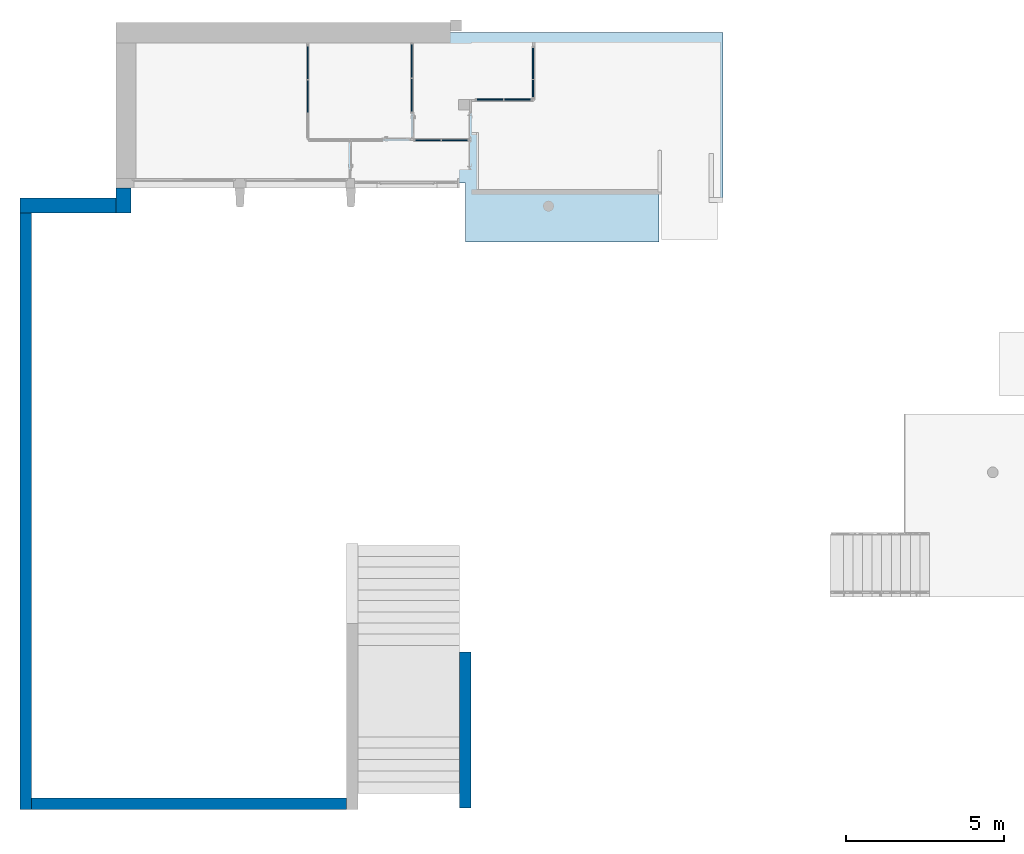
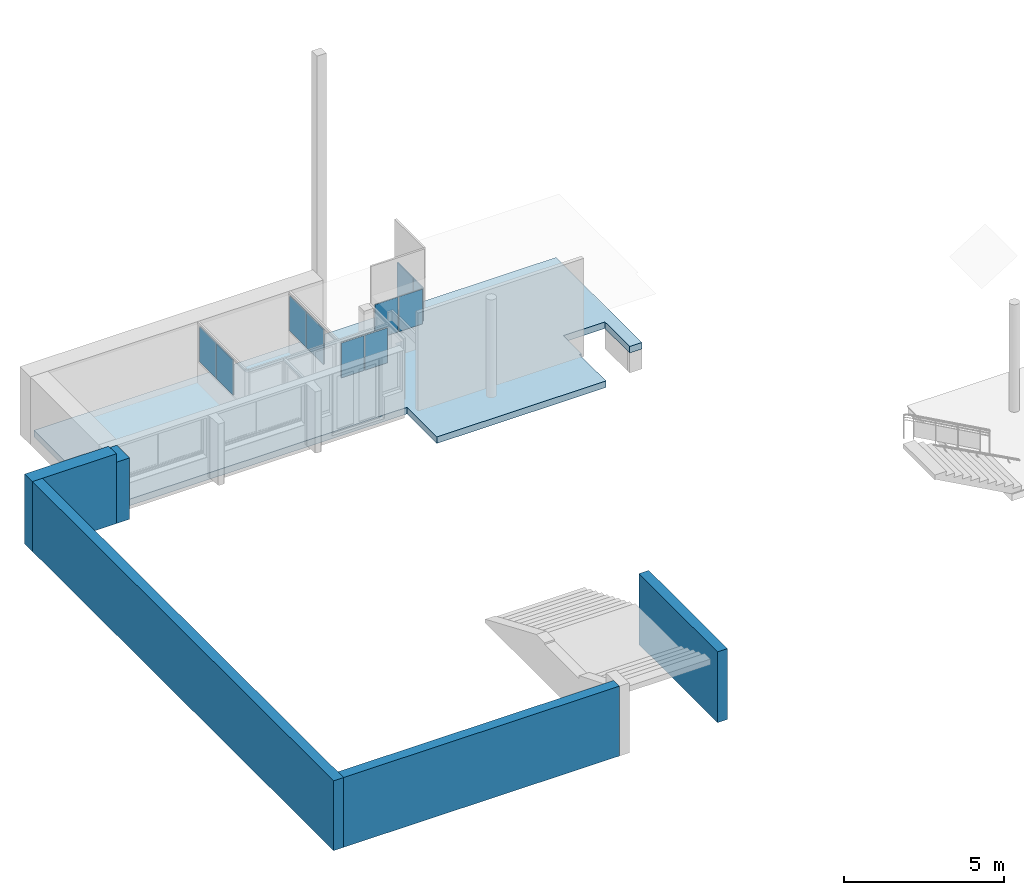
# One storey, part 5 of 19: 10 plates, 5 walls, 1 slab, 5 elements without a shape of their own.
"""IFC4 building model written with IfcOpenShell, lengths in metres."""

import ifcopenshell
import ifcopenshell.guid

model = None  # the IFC model being written
_history = None  # IfcOwnerHistory: only IFC2X3 demands one
_inside = {}  # id of a spatial element -> (the spatial element, [elements in it])
_under = {}  # id of a project, library or spatial element -> (it, [spatial elements below it])
_declared = {}  # id of a project -> (the project, [libraries it declares])
_typed = {}  # id of a type object -> (the type object, [elements of that type])
_made_of = {}  # id of a material, layer set ... -> (it, [elements and type objects made of it])


def new_model(schema):
    """Start an empty IFC model of exactly this schema.

    Asked for "IFC4X3", IfcOpenShell would pick the latest addendum, in which some entities
    have other attributes; the version numbers below select the first issue.
    IFC2X3 requires an IfcOwnerHistory on every rooted entity: one is made here for all.
    """
    global model, _history
    if schema == "IFC4X3":
        model = ifcopenshell.file(schema_version=(4, 3, 0, 0))
    else:
        model = ifcopenshell.file(schema=schema)
    _inside.clear()
    _under.clear()
    _declared.clear()
    _typed.clear()
    _made_of.clear()
    _history = None
    if model.schema == "IFC2X3":
        org = make("IfcOrganization", Name="unknown")
        user = make(
            "IfcPersonAndOrganization",
            ThePerson=make("IfcPerson", FamilyName="unknown"),
            TheOrganization=org,
        )
        app = make(
            "IfcApplication",
            ApplicationDeveloper=org,
            Version="unknown",
            ApplicationFullName="unknown",
            ApplicationIdentifier="unknown",
        )
        _history = make(
            "IfcOwnerHistory",
            OwningUser=user,
            OwningApplication=app,
            ChangeAction="ADDED",
            CreationDate=0,
        )
    return model


def make(cls, **values):
    """One entity of the class cls with the attributes given. An attribute that is None is left unset."""
    return model.create_entity(
        cls, **{name: value for name, value in values.items() if value is not None}
    )


def entity(cls, *values):
    """Any entity or typed value of the class cls, its attributes in the order of the schema. None: left unset."""
    e = model.create_entity(cls)
    for i, value in enumerate(values):
        if value is not None:
            e[i] = value
    return e


def rooted(cls, **values):
    """An entity with a GlobalId (a new one), such as an element, a storey or a relation."""
    return make(cls, GlobalId=ifcopenshell.guid.new(), OwnerHistory=_history, **values)


def si_unit(unit_type, name, prefix=None):
    """IfcSIUnit, for example si_unit("LENGTHUNIT", "METRE", prefix="MILLI")."""
    return make("IfcSIUnit", UnitType=unit_type, Prefix=prefix, Name=name)


def converted_unit(unit_type, name, factor, base, dimensions=None, offset=None):
    """IfcConversionBasedUnit, such as the inch: factor (a typed value) times the base unit."""
    return make(
        "IfcConversionBasedUnit"
        if offset is None
        else "IfcConversionBasedUnitWithOffset",
        ConversionOffset=offset,
        Dimensions=None
        if dimensions is None
        else entity("IfcDimensionalExponents", *dimensions),
        UnitType=unit_type,
        Name=name,
        ConversionFactor=make(
            "IfcMeasureWithUnit", ValueComponent=factor, UnitComponent=base
        ),
    )


def derived_unit(unit_type, elements):
    """IfcDerivedUnit: a product of units, each with its exponent."""
    return make(
        "IfcDerivedUnit",
        Elements=[
            make("IfcDerivedUnitElement", Unit=unit, Exponent=power)
            for unit, power in elements
        ],
        UnitType=unit_type,
    )


def assignment(units):
    """IfcUnitAssignment: the units of a project."""
    return None if units is None else make("IfcUnitAssignment", Units=units)


def point(xyz):
    """IfcCartesianPoint."""
    return None if xyz is None else make("IfcCartesianPoint", Coordinates=xyz)


def direction(xyz):
    """IfcDirection."""
    return None if xyz is None else make("IfcDirection", DirectionRatios=xyz)


def frame(location, z_axis=None, x_axis=None):
    """IfcAxis2Placement3D, a coordinate frame: its origin and axes. An axis left out is left unset."""
    return make(
        "IfcAxis2Placement3D",
        Location=point(location),
        Axis=direction(z_axis),
        RefDirection=direction(x_axis),
    )


def origin():
    """The frame at (0, 0, 0) with its axes left unset."""
    return frame((0.0, 0.0, 0.0))


def place(relative_to, where):
    """IfcLocalPlacement: puts the frame where relative to a parent placement (None: the world)."""
    return make(
        "IfcLocalPlacement", PlacementRelTo=relative_to, RelativePlacement=where
    )


def context(
    kind, dimensions, precision=None, world=None, true_north=None, identifier=None
):
    """IfcGeometricRepresentationContext, for example the 3D "Model" context."""
    return make(
        "IfcGeometricRepresentationContext",
        ContextIdentifier=identifier,
        ContextType=kind,
        CoordinateSpaceDimension=dimensions,
        Precision=precision,
        WorldCoordinateSystem=world,
        TrueNorth=true_north,
    )


def subcontext(parent, identifier, kind, view, scale=None):
    """IfcGeometricRepresentationSubContext, for example "Body" below "Model"."""
    return make(
        "IfcGeometricRepresentationSubContext",
        ContextIdentifier=identifier,
        ContextType=kind,
        ParentContext=parent,
        TargetScale=scale,
        TargetView=view,
    )


def project(units=None, contexts=None):
    """IfcProject with its units and contexts."""
    return rooted(
        "IfcProject",
        Name="project",
        RepresentationContexts=contexts,
        UnitsInContext=assignment(units),
    )


def spatial(cls, under=None, at=None, **own):
    """A site, building, storey or space (cls), placed at a placement, below another one or the project."""
    s = rooted(cls, ObjectPlacement=at, **own)
    if under is not None:
        _under.setdefault(under.id(), (under, []))[1].append(s)
    return s


def point_list(points):
    """IfcCartesianPointList2D or 3D."""
    cls = (
        "IfcCartesianPointList2D" if len(points[0]) == 2 else "IfcCartesianPointList3D"
    )
    return make(cls, CoordList=points)


def indexed_curve(points, segments=None, self_intersect=None):
    """IfcIndexedPolyCurve: lines and arcs through numbered points (the first is 1)."""
    return make(
        "IfcIndexedPolyCurve",
        Points=point_list(points),
        Segments=segments,
        SelfIntersect=self_intersect,
    )


def outline(outer, holes=None, kind="AREA"):
    """IfcArbitraryClosedProfileDef: a profile drawn as a closed curve; with holes, ...WithVoids."""
    if holes is None:
        return make("IfcArbitraryClosedProfileDef", ProfileType=kind, OuterCurve=outer)
    return make(
        "IfcArbitraryProfileDefWithVoids",
        ProfileType=kind,
        OuterCurve=outer,
        InnerCurves=holes,
    )


def extrude(swept, where, along, depth):
    """IfcExtrudedAreaSolid: the profile swept, set in the frame where, extruded along a direction by depth."""
    return make(
        "IfcExtrudedAreaSolid",
        SweptArea=swept,
        Position=where,
        ExtrudedDirection=direction(along),
        Depth=depth,
    )


def shape(context_of_items, identifier, shape_type, items):
    """IfcShapeRepresentation: the items that make up one representation, for example the "Body"."""
    return make(
        "IfcShapeRepresentation",
        ContextOfItems=context_of_items,
        RepresentationIdentifier=identifier,
        RepresentationType=shape_type,
        Items=items,
    )


def source(mapping_origin, context_of_items, identifier, shape_type, items):
    """IfcRepresentationMap: a shape defined once, which mapped items show again and again."""
    return make(
        "IfcRepresentationMap",
        MappingOrigin=mapping_origin,
        MappedRepresentation=shape(context_of_items, identifier, shape_type, items),
    )


def transform(
    local_origin,
    x_axis=None,
    y_axis=None,
    z_axis=None,
    scale=None,
    scale2=None,
    scale3=None,
    uniform=True,
):
    """IfcCartesianTransformationOperator3D, or its non-uniform kind. x_axis, y_axis, z_axis: its Axis1, 2, 3."""
    if uniform:
        return make(
            "IfcCartesianTransformationOperator3D",
            Axis1=direction(x_axis),
            Axis2=direction(y_axis),
            LocalOrigin=point(local_origin),
            Scale=scale,
            Axis3=direction(z_axis),
        )
    return make(
        "IfcCartesianTransformationOperator3DnonUniform",
        Axis1=direction(x_axis),
        Axis2=direction(y_axis),
        LocalOrigin=point(local_origin),
        Scale=scale,
        Axis3=direction(z_axis),
        Scale2=scale2,
        Scale3=scale3,
    )


def mapped(mapping_source, mapping_target):
    """IfcMappedItem: shows the shape of a source again, moved by a transform."""
    return make(
        "IfcMappedItem", MappingSource=mapping_source, MappingTarget=mapping_target
    )


def material(Name=None, Category=None):
    """IfcMaterial."""
    return make("IfcMaterial", Name=Name, Category=Category)


def layer(
    of_material, thickness, ventilated=None, Name=None, Category=None, Priority=None
):
    """IfcMaterialLayer: one layer of a wall or slab, of a material (None: an air gap)."""
    return make(
        "IfcMaterialLayer",
        Material=of_material,
        LayerThickness=thickness,
        IsVentilated=ventilated,
        Name=Name,
        Category=Category,
        Priority=Priority,
    )


def layer_set(layers, Name=None):
    """IfcMaterialLayerSet."""
    return make("IfcMaterialLayerSet", MaterialLayers=layers, LayerSetName=Name)


def made_of(thing, what):
    """Note that an element or type object is made of a material, layer set ...; save() writes the relation."""
    if what is not None:
        _made_of.setdefault(what.id(), (what, []))[1].append(thing)
    return thing


def type_object(cls, material=None, **own):
    """A type object (cls), such as IfcWallType, which elements share."""
    return made_of(rooted(cls, **own), material)


def type_shapes(of_type, sources):
    """Give a type object the sources (RepresentationMaps) that its elements show as mapped items."""
    of_type.RepresentationMaps = sources


def element(
    cls,
    number,
    at=None,
    inside=None,
    cuts=None,
    type_object=None,
    material=None,
    context=None,
    identifier="Body",
    shape_type=None,
    held_by="IfcProductDefinitionShape",
    body=None,
    shapes=None,
    **own,
):
    """One element of the class cls, such as IfcWall. Its Tag is "e" and its number.

    at: its placement. inside: the storey or other place that contains it. cuts: it is an
    opening in that element (IfcRelVoidsElement). A single representation is given by context,
    identifier, shape_type and body (its items); several are given by shapes. held_by: the class
    of the entity that holds the representations. save() writes the other relations.
    """
    e = rooted(cls, Tag="e%d" % number, ObjectPlacement=at, **own)
    if body is not None:
        shapes = [shape(context, identifier, shape_type, body)]
    if shapes is not None:
        e.Representation = make(held_by, Representations=shapes)
    if inside is not None:
        _inside.setdefault(inside.id(), (inside, []))[1].append(e)
    if cuts is not None:
        rooted(
            "IfcRelVoidsElement", RelatingBuildingElement=cuts, RelatedOpeningElement=e
        )
    if type_object is not None:
        _typed.setdefault(type_object.id(), (type_object, []))[1].append(e)
    return made_of(e, material)


def aggregate(whole, parts):
    """IfcRelAggregates: a whole, such as a stair, and the parts it consists of."""
    return rooted("IfcRelAggregates", RelatingObject=whole, RelatedObjects=parts)


def save(model, path):
    """Write the relations noted so far, then the file.

    IfcRelAggregates (storeys below a building ...), IfcRelContainedInSpatialStructure (elements
    in a storey), IfcRelDefinesByType, IfcRelAssociatesMaterial and IfcRelDeclares: one each for
    every whole, place, type object, material and project.
    """
    for whole, parts in _under.values():
        aggregate(whole, parts)
    for where, things in _inside.values():
        rooted(
            "IfcRelContainedInSpatialStructure",
            RelatedElements=things,
            RelatingStructure=where,
        )
    for kind, things in _typed.values():
        rooted("IfcRelDefinesByType", RelatedObjects=things, RelatingType=kind)
    for what, things in _made_of.values():
        rooted("IfcRelAssociatesMaterial", RelatedObjects=things, RelatingMaterial=what)
    for by, libraries in _declared.values():
        rooted("IfcRelDeclares", RelatingContext=by, RelatedDefinitions=libraries)
    model.write(path)


model = new_model("IFC4")

# Units and contexts
model_context = context("Model", 3, precision=1e-05, world=origin(), true_north=direction((6.12303176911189e-17, 1.0)))
body_context = subcontext(model_context, "Body", "Model", "MODEL_VIEW")
footprint_context = subcontext(model_context, "FootPrint", "Model", "MODEL_VIEW")
ifc_project = project(units=[si_unit("LENGTHUNIT", "METRE"), si_unit("AREAUNIT", "SQUARE_METRE"), si_unit("VOLUMEUNIT", "CUBIC_METRE"), converted_unit("PLANEANGLEUNIT", "DEGREE", entity("IfcRatioMeasure", 0.0174532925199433), si_unit("PLANEANGLEUNIT", "RADIAN"), dimensions=[0, 0, 0, 0, 0, 0, 0]), si_unit("MASSUNIT", "GRAM", prefix="KILO"), derived_unit("MASSDENSITYUNIT", [(si_unit("MASSUNIT", "GRAM", prefix="KILO"), 1), (si_unit("LENGTHUNIT", "METRE"), -3)]), derived_unit("MOMENTOFINERTIAUNIT", [(si_unit("LENGTHUNIT", "METRE"), 4)]), si_unit("TIMEUNIT", "SECOND"), si_unit("FREQUENCYUNIT", "HERTZ"), si_unit("THERMODYNAMICTEMPERATUREUNIT", "DEGREE_CELSIUS"), derived_unit("THERMALTRANSMITTANCEUNIT", [(si_unit("MASSUNIT", "GRAM", prefix="KILO"), 1), (si_unit("THERMODYNAMICTEMPERATUREUNIT", "KELVIN"), -1), (si_unit("TIMEUNIT", "SECOND"), -3)]), derived_unit("VOLUMETRICFLOWRATEUNIT", [(si_unit("LENGTHUNIT", "METRE"), 3), (si_unit("TIMEUNIT", "SECOND"), -1)]), si_unit("ELECTRICCURRENTUNIT", "AMPERE"), si_unit("ELECTRICVOLTAGEUNIT", "VOLT"), si_unit("POWERUNIT", "WATT"), si_unit("FORCEUNIT", "NEWTON", prefix="KILO"), si_unit("ILLUMINANCEUNIT", "LUX"), si_unit("LUMINOUSFLUXUNIT", "LUMEN"), si_unit("LUMINOUSINTENSITYUNIT", "CANDELA"), derived_unit("USERDEFINED", [(si_unit("MASSUNIT", "GRAM", prefix="KILO"), -1), (si_unit("LENGTHUNIT", "METRE"), -2), (si_unit("TIMEUNIT", "SECOND"), 3), (si_unit("LUMINOUSFLUXUNIT", "LUMEN"), 1)]), derived_unit("LINEARVELOCITYUNIT", [(si_unit("LENGTHUNIT", "METRE"), 1), (si_unit("TIMEUNIT", "SECOND"), -1)]), si_unit("PRESSUREUNIT", "PASCAL"), derived_unit("USERDEFINED", [(si_unit("LENGTHUNIT", "METRE"), -2), (si_unit("MASSUNIT", "GRAM", prefix="KILO"), 1), (si_unit("TIMEUNIT", "SECOND"), -2)]), derived_unit("LINEARFORCEUNIT", [(si_unit("MASSUNIT", "GRAM", prefix="KILO"), 1), (si_unit("LENGTHUNIT", "METRE"), 1), (si_unit("TIMEUNIT", "SECOND"), -2), (si_unit("LENGTHUNIT", "METRE"), -1)]), derived_unit("PLANARFORCEUNIT", [(si_unit("MASSUNIT", "GRAM", prefix="KILO"), 1), (si_unit("LENGTHUNIT", "METRE"), 1), (si_unit("TIMEUNIT", "SECOND"), -2), (si_unit("LENGTHUNIT", "METRE"), -2)])], contexts=[model_context])

# Site, building, storey
site_placement = place(None, origin())
site = spatial("IfcSite", under=ifc_project, at=site_placement, Name="Default", CompositionType="ELEMENT")
building_placement = place(site_placement, origin())
building = spatial("IfcBuilding", under=site, at=building_placement, Name="HOTEL CONSULAIRE BOULOGNE SUR MER", CompositionType="ELEMENT")
storey_placement = place(building_placement, frame((0.0, 0.0, -4.01003075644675)))
storey = spatial("IfcBuildingStorey", under=building, at=storey_placement, Name="SS2", CompositionType="ELEMENT", Elevation=-4.01003075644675)

# Curtain wall, plates
curtain_wall_type = type_object("IfcCurtainWallType", Name="Mur-rideau:Simple panneau", PredefinedType="NOTDEFINED")
curtain_wall_1_placement = place(storey_placement, frame((0.0, 0.0, 4.01003075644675)))
curtain_wall_1 = element("IfcCurtainWall", 1, at=curtain_wall_1_placement, inside=storey, type_object=curtain_wall_type, Name="Mur-rideau:Simple panneau", ObjectType="Mur-rideau:Simple panneau", PredefinedType="NOTDEFINED")
ifc_material_1 = material(Name="Verre", Category="Verre")
ifc_layer_1 = layer(ifc_material_1, 0.04, Name="Verre", Category="Verre")
ifc_layer_set_1 = layer_set([ifc_layer_1], Name="Mur-rideau:Simple panneau")
plate_type_1 = type_object("IfcPlateType", Name="Panneau système:Vitré", PredefinedType="CURTAIN_PANEL", material=ifc_layer_set_1)
shared_shape_1 = source(origin(), body_context, "Body", "SweptSolid", [
    extrude(outline(indexed_curve([(-0.02, -0.274563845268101), (0.02, -0.274563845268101), (0.02, 0.274563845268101), (-0.02, 0.274563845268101), (-0.02, -0.274563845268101)], self_intersect=False)), frame((0.274563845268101, 0.02, 0.0), z_axis=(0.0, 0.0, 1.0), x_axis=(0.0, 1.0, 0.0)), (0.0, 0.0, 1.0), 1.29409370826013),
])
shared_shape_2 = source(frame((-0.274563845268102, 0.00500000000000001, 0.0)), footprint_context, "FootPrint", "Curve2D", [
    entity("IfcIndexedPolyCurve", entity("IfcCartesianPointList2D", [[0.358250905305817, 0.003476], [0.358250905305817, 0.043476], [-0.190876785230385, 0.043476], [-0.190876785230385, 0.003476], [0.358250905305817, 0.003476]]), None, False),
])
type_shapes(plate_type_1, [shared_shape_1, shared_shape_2])
plate_1_placement = place(curtain_wall_1_placement, frame((-11.5139610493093, -12.1861492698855, -3.10059183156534), z_axis=(0.0, 0.0, 1.0), x_axis=(0.0, 1.0, 0.0)))
plate_1 = element("IfcPlate", 2, at=plate_1_placement, type_object=plate_type_1, material=ifc_layer_set_1, Name="Panneau système:Vitré", ObjectType="Panneau système:Vitré", PredefinedType="CURTAIN_PANEL", shapes=[
    shape(body_context, "Body", "MappedRepresentation", [mapped(shared_shape_1, transform((0.0, 0.0, 0.0), scale=1.0))]),
    shape(body_context, "Body", "MappedRepresentation", [mapped(shared_shape_2, transform((0.0, 0.0, 0.0), scale=1.0))]),
])
plate_type_2 = type_object("IfcPlateType", Name="Panneau système:Vitré", PredefinedType="CURTAIN_PANEL", material=ifc_layer_set_1)
shared_shape_3 = source(origin(), body_context, "Body", "SweptSolid", [
    extrude(outline(indexed_curve([(-0.02, -0.492012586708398), (0.02, -0.492012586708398), (0.02, 0.492012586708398), (-0.02, 0.492012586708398), (-0.02, -0.492012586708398)], self_intersect=False)), frame((0.492012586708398, 0.02, 0.0), z_axis=(0.0, 0.0, 1.0), x_axis=(0.0, 1.0, 0.0)), (0.0, 0.0, 1.0), 1.29409370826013),
])
shared_shape_4 = source(frame((-0.492012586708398, 0.00500000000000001, 0.0)), footprint_context, "FootPrint", "Curve2D", [
    entity("IfcIndexedPolyCurve", entity("IfcCartesianPointList2D", [[0.641978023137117, 0.003476], [0.641978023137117, 0.043476], [-0.342047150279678, 0.043476], [-0.342047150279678, 0.003476], [0.641978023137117, 0.003476]]), None, False),
])
type_shapes(plate_type_2, [shared_shape_3, shared_shape_4])
plate_2_placement = place(curtain_wall_1_placement, frame((-11.5139610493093, -11.6070215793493, -3.10059183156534), z_axis=(0.0, 0.0, 1.0), x_axis=(0.0, 1.0, 0.0)))
plate_2 = element("IfcPlate", 3, at=plate_2_placement, type_object=plate_type_2, material=ifc_layer_set_1, Name="Panneau système:Vitré", ObjectType="Panneau système:Vitré", PredefinedType="CURTAIN_PANEL", shapes=[
    shape(body_context, "Body", "MappedRepresentation", [mapped(shared_shape_3, transform((0.0, 0.0, 0.0), scale=1.0))]),
    shape(body_context, "Body", "MappedRepresentation", [mapped(shared_shape_4, transform((0.0, 0.0, 0.0), scale=1.0))]),
])
aggregate(curtain_wall_1, [plate_1, plate_2])

curtain_wall_2_placement = place(storey_placement, frame((0.0, 0.0, 4.01003075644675)))
curtain_wall_2 = element("IfcCurtainWall", 4, at=curtain_wall_2_placement, inside=storey, type_object=curtain_wall_type, Name="Mur-rideau:Simple panneau", ObjectType="Mur-rideau:Simple panneau", PredefinedType="NOTDEFINED")
plate_type_3 = type_object("IfcPlateType", Name="Panneau système:Vitré", PredefinedType="CURTAIN_PANEL", material=ifc_layer_set_1)
shared_shape_5 = source(origin(), body_context, "Body", "SweptSolid", [
    extrude(outline(indexed_curve([(-0.02, -0.417004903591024), (0.02, -0.417004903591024), (0.02, 0.417004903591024), (-0.02, 0.417004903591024), (-0.02, -0.417004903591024)], self_intersect=False)), frame((0.417004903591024, 0.02, 0.0), z_axis=(0.0, 0.0, 1.0), x_axis=(0.0, 1.0, 0.0)), (0.0, 0.0, 1.0), 1.32926671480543),
])
shared_shape_6 = source(frame((-0.417004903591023, 0.00500000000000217, 0.0)), footprint_context, "FootPrint", "Curve2D", [
    entity("IfcIndexedPolyCurve", entity("IfcCartesianPointList2D", [[0.544107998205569, 0.00347600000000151], [0.544107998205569, 0.0434760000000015], [-0.289901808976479, 0.0434760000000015], [-0.289901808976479, 0.00347600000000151], [0.544107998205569, 0.00347600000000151]]), None, False),
])
type_shapes(plate_type_3, [shared_shape_5, shared_shape_6])
plate_3_placement = place(curtain_wall_2_placement, frame((-13.3079806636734, -12.2751492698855, -3.13576483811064)))
plate_3 = element("IfcPlate", 5, at=plate_3_placement, type_object=plate_type_3, material=ifc_layer_set_1, Name="Panneau système:Vitré", ObjectType="Panneau système:Vitré", PredefinedType="CURTAIN_PANEL", shapes=[
    shape(body_context, "Body", "MappedRepresentation", [mapped(shared_shape_5, transform((0.0, 0.0, 0.0), scale=1.0))]),
    shape(body_context, "Body", "MappedRepresentation", [mapped(shared_shape_6, transform((0.0, 0.0, 0.0), scale=1.0))]),
])
plate_type_4 = type_object("IfcPlateType", Name="Panneau système:Vitré", PredefinedType="CURTAIN_PANEL", material=ifc_layer_set_1)
shared_shape_7 = source(origin(), body_context, "Body", "SweptSolid", [
    extrude(outline(indexed_curve([(-0.02, -0.42050490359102), (0.02, -0.42050490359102), (0.02, 0.42050490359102), (-0.02, 0.42050490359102), (-0.02, -0.42050490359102)], self_intersect=False)), frame((0.42050490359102, 0.02, 0.0), z_axis=(0.0, 0.0, 1.0), x_axis=(0.0, 1.0, 0.0)), (0.0, 0.0, 1.0), 1.32926671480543),
])
shared_shape_8 = source(frame((-0.42050490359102, 0.00499999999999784, 0.0)), footprint_context, "FootPrint", "Curve2D", [
    entity("IfcIndexedPolyCurve", entity("IfcCartesianPointList2D", [[0.548674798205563, 0.0034759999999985], [0.548674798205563, 0.0434759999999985], [-0.292335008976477, 0.0434759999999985], [-0.292335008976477, 0.0034759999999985], [0.548674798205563, 0.0034759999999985]]), None, False),
])
type_shapes(plate_type_4, [shared_shape_7, shared_shape_8])
plate_4_placement = place(curtain_wall_2_placement, frame((-12.4439708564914, -12.2751492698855, -3.13576483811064)))
plate_4 = element("IfcPlate", 6, at=plate_4_placement, type_object=plate_type_4, material=ifc_layer_set_1, Name="Panneau système:Vitré", ObjectType="Panneau système:Vitré", PredefinedType="CURTAIN_PANEL", shapes=[
    shape(body_context, "Body", "MappedRepresentation", [mapped(shared_shape_7, transform((0.0, 0.0, 0.0), scale=1.0))]),
    shape(body_context, "Body", "MappedRepresentation", [mapped(shared_shape_8, transform((0.0, 0.0, 0.0), scale=1.0))]),
])
aggregate(curtain_wall_2, [plate_3, plate_4])

curtain_wall_3_placement = place(storey_placement, frame((0.0, 0.0, 4.01003075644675)))
curtain_wall_3 = element("IfcCurtainWall", 7, at=curtain_wall_3_placement, inside=storey, type_object=curtain_wall_type, Name="Mur-rideau:Simple panneau", ObjectType="Mur-rideau:Simple panneau", PredefinedType="NOTDEFINED")
plate_type_5 = type_object("IfcPlateType", Name="Panneau système:Vitré", PredefinedType="CURTAIN_PANEL", material=ifc_layer_set_1)
shared_shape_9 = source(origin(), body_context, "Body", "SweptSolid", [
    extrude(outline(indexed_curve([(-0.02, -0.523250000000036), (0.02, -0.523250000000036), (0.02, 0.523250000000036), (-0.02, 0.523250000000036), (-0.02, -0.523250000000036)], self_intersect=False)), frame((0.523250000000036, 0.02, 0.0), z_axis=(0.0, 0.0, 1.0), x_axis=(0.0, 1.0, 0.0)), (0.0, 0.0, 1.0), 1.32926671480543),
])
shared_shape_10 = source(frame((-0.523250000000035, 0.00500000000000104, 0.0)), footprint_context, "FootPrint", "Curve2D", [
    entity("IfcIndexedPolyCurve", entity("IfcCartesianPointList2D", [[0.682736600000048, 0.00347600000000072], [0.682736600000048, 0.0434760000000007], [-0.363763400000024, 0.0434760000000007], [-0.363763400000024, 0.00347600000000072], [0.682736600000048, 0.00347600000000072]]), None, False),
])
type_shapes(plate_type_5, [shared_shape_9, shared_shape_10])
plate_5_placement = place(curtain_wall_3_placement, frame((-15.3421943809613, -12.6393241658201, -3.13576483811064), z_axis=(0.0, 0.0, 1.0), x_axis=(0.0, 1.0, 0.0)))
plate_5 = element("IfcPlate", 8, at=plate_5_placement, type_object=plate_type_5, material=ifc_layer_set_1, Name="Panneau système:Vitré", ObjectType="Panneau système:Vitré", PredefinedType="CURTAIN_PANEL", shapes=[
    shape(body_context, "Body", "MappedRepresentation", [mapped(shared_shape_9, transform((0.0, 0.0, 0.0), scale=1.0))]),
    shape(body_context, "Body", "MappedRepresentation", [mapped(shared_shape_10, transform((0.0, 0.0, 0.0), scale=1.0))]),
])
plate_6_placement = place(curtain_wall_3_placement, frame((-15.3421943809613, -11.56282416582, -3.13576483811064), z_axis=(0.0, 0.0, 1.0), x_axis=(0.0, 1.0, 0.0)))
plate_6 = element("IfcPlate", 9, at=plate_6_placement, type_object=plate_type_5, material=ifc_layer_set_1, Name="Panneau système:Vitré", ObjectType="Panneau système:Vitré", PredefinedType="CURTAIN_PANEL", shapes=[
    shape(body_context, "Body", "MappedRepresentation", [mapped(shared_shape_9, transform((0.0, 0.0, 0.0), scale=1.0))]),
    shape(body_context, "Body", "MappedRepresentation", [mapped(shared_shape_10, transform((0.0, 0.0, 0.0), scale=1.0))]),
])
aggregate(curtain_wall_3, [plate_5, plate_6])

curtain_wall_4_placement = place(storey_placement, frame((0.0, 0.0, 4.01003075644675)))
curtain_wall_4 = element("IfcCurtainWall", 10, at=curtain_wall_4_placement, inside=storey, type_object=curtain_wall_type, Name="Mur-rideau:Simple panneau", ObjectType="Mur-rideau:Simple panneau", PredefinedType="NOTDEFINED")
plate_type_6 = type_object("IfcPlateType", Name="Panneau système:Vitré", PredefinedType="CURTAIN_PANEL", material=ifc_layer_set_1)
shared_shape_11 = source(origin(), body_context, "Body", "SweptSolid", [
    extrude(outline(indexed_curve([(-0.02, -0.406711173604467), (0.02, -0.406711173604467), (0.02, 0.406711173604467), (-0.02, 0.406711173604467), (-0.02, -0.406711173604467)], self_intersect=False)), frame((0.406711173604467, 0.02, 0.0), z_axis=(0.0, 0.0, 1.0), x_axis=(0.0, 1.0, 0.0)), (0.0, 0.0, 1.0), 1.32926671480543),
])
shared_shape_12 = source(frame((-0.406711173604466, 0.00500000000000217, 0.0)), footprint_context, "FootPrint", "Curve2D", [
    entity("IfcIndexedPolyCurve", entity("IfcCartesianPointList2D", [[0.530676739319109, 0.00347600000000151], [0.530676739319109, 0.0434760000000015], [-0.282745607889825, 0.0434760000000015], [-0.282745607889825, 0.00347600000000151], [0.530676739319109, 0.00347600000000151]]), None, False),
])
type_shapes(plate_type_6, [shared_shape_11, shared_shape_12])
plate_7_placement = place(curtain_wall_4_placement, frame((-13.5953496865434, -13.51932416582, -3.13576483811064), z_axis=(0.0, 0.0, 1.0), x_axis=(-1.0, 0.0, 0.0)))
plate_7 = element("IfcPlate", 11, at=plate_7_placement, type_object=plate_type_6, material=ifc_layer_set_1, Name="Panneau système:Vitré", ObjectType="Panneau système:Vitré", PredefinedType="CURTAIN_PANEL", shapes=[
    shape(body_context, "Body", "MappedRepresentation", [mapped(shared_shape_11, transform((0.0, 0.0, 0.0), scale=1.0))]),
    shape(body_context, "Body", "MappedRepresentation", [mapped(shared_shape_12, transform((0.0, 0.0, 0.0), scale=1.0))]),
])
plate_8_placement = place(curtain_wall_4_placement, frame((-14.4387720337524, -13.51932416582, -3.13576483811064), z_axis=(0.0, 0.0, 1.0), x_axis=(-1.0, 0.0, 0.0)))
plate_8 = element("IfcPlate", 12, at=plate_8_placement, type_object=plate_type_6, material=ifc_layer_set_1, Name="Panneau système:Vitré", ObjectType="Panneau système:Vitré", PredefinedType="CURTAIN_PANEL", shapes=[
    shape(body_context, "Body", "MappedRepresentation", [mapped(shared_shape_11, transform((0.0, 0.0, 0.0), scale=1.0))]),
    shape(body_context, "Body", "MappedRepresentation", [mapped(shared_shape_12, transform((0.0, 0.0, 0.0), scale=1.0))]),
])
aggregate(curtain_wall_4, [plate_7, plate_8])

curtain_wall_5_placement = place(storey_placement, frame((0.0, 0.0, 4.01003075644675)))
curtain_wall_5 = element("IfcCurtainWall", 13, at=curtain_wall_5_placement, inside=storey, type_object=curtain_wall_type, Name="Mur-rideau:Simple panneau", ObjectType="Mur-rideau:Simple panneau", PredefinedType="NOTDEFINED")
plate_type_7 = type_object("IfcPlateType", Name="Panneau système:Vitré", PredefinedType="CURTAIN_PANEL", material=ifc_layer_set_1)
shared_shape_13 = source(origin(), body_context, "Body", "SweptSolid", [
    extrude(outline(indexed_curve([(-0.02, -0.515000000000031), (0.02, -0.515000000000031), (0.02, 0.515000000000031), (-0.02, 0.515000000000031), (-0.02, -0.515000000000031)], self_intersect=False)), frame((0.515000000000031, 0.02, 0.0), z_axis=(0.0, 0.0, 1.0), x_axis=(0.0, 1.0, 0.0)), (0.0, 0.0, 1.0), 1.32926671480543),
])
shared_shape_14 = source(frame((-0.515000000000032, 0.00500000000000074, 0.0)), footprint_context, "FootPrint", "Curve2D", [
    entity("IfcIndexedPolyCurve", entity("IfcCartesianPointList2D", [[0.67197200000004, 0.00347600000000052], [0.67197200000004, 0.0434760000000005], [-0.358028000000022, 0.0434760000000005], [-0.358028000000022, 0.00347600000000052], [0.67197200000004, 0.00347600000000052]]), None, False),
])
type_shapes(plate_type_7, [shared_shape_13, shared_shape_14])
plate_9_placement = place(curtain_wall_5_placement, frame((-18.6187787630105, -12.67732416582, -3.13576483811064), z_axis=(0.0, 0.0, 1.0), x_axis=(0.0, 1.0, 0.0)))
plate_9 = element("IfcPlate", 14, at=plate_9_placement, type_object=plate_type_7, material=ifc_layer_set_1, Name="Panneau système:Vitré", ObjectType="Panneau système:Vitré", PredefinedType="CURTAIN_PANEL", shapes=[
    shape(body_context, "Body", "MappedRepresentation", [mapped(shared_shape_13, transform((0.0, 0.0, 0.0), scale=1.0))]),
    shape(body_context, "Body", "MappedRepresentation", [mapped(shared_shape_14, transform((0.0, 0.0, 0.0), scale=1.0))]),
])
plate_type_8 = type_object("IfcPlateType", Name="Panneau système:Vitré", PredefinedType="CURTAIN_PANEL", material=ifc_layer_set_1)
shared_shape_15 = source(origin(), body_context, "Body", "SweptSolid", [
    extrude(outline(indexed_curve([(-0.02, -0.521424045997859), (0.02, -0.521424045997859), (0.02, 0.521424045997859), (-0.02, 0.521424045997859), (-0.02, -0.521424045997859)], self_intersect=False)), frame((0.521424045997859, 0.02, 0.0), z_axis=(0.0, 0.0, 1.0), x_axis=(0.0, 1.0, 0.0)), (0.0, 0.0, 1.0), 1.32926671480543),
])
shared_shape_16 = source(frame((-0.521424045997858, 0.00499999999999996, 0.0)), footprint_context, "FootPrint", "Curve2D", [
    entity("IfcIndexedPolyCurve", entity("IfcCartesianPointList2D", [[0.680354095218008, 0.00347599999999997], [0.680354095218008, 0.043476], [-0.362493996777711, 0.043476], [-0.362493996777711, 0.00347599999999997], [0.680354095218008, 0.00347599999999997]]), None, False),
])
type_shapes(plate_type_8, [shared_shape_15, shared_shape_16])
plate_10_placement = place(curtain_wall_5_placement, frame((-18.6187787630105, -11.6173241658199, -3.13576483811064), z_axis=(0.0, 0.0, 1.0), x_axis=(0.0, 1.0, 0.0)))
plate_10 = element("IfcPlate", 15, at=plate_10_placement, type_object=plate_type_8, material=ifc_layer_set_1, Name="Panneau système:Vitré", ObjectType="Panneau système:Vitré", PredefinedType="CURTAIN_PANEL", shapes=[
    shape(body_context, "Body", "MappedRepresentation", [mapped(shared_shape_15, transform((0.0, 0.0, 0.0), scale=1.0))]),
    shape(body_context, "Body", "MappedRepresentation", [mapped(shared_shape_16, transform((0.0, 0.0, 0.0), scale=1.0))]),
])
aggregate(curtain_wall_5, [plate_9, plate_10])

# Slab
ifc_material_2 = material(Name="Béton - Béton coulé sur place", Category="Béton")
ifc_layer_2 = layer(ifc_material_2, 0.25, Name="Béton - Béton coulé sur place", Category="Béton")
ifc_layer_set_2 = layer_set([ifc_layer_2], Name="Sol:Dalle en béton -250")
slab_type = type_object("IfcSlabType", Name="Sol:Dalle en béton -250", PredefinedType="FLOOR", material=ifc_layer_set_2)
slab_placement = place(storey_placement, origin())
element("IfcSlab", 16, at=slab_placement, inside=storey, type_object=slab_type, material=ifc_layer_set_2, Name="Sol:Dalle en béton -250", ObjectType="Sol:Dalle en béton -250", PredefinedType="FLOOR", context=body_context, shape_type="SweptSolid", body=[
    extrude(outline(indexed_curve([(-0.500998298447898, -13.6090009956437), (4.24525316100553, -13.6090009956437), (4.24525316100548, 5.22381837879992), (-1.10862482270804, 5.22381837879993), (-1.10862482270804, 4.78581837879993), (0.437375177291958, 4.78581837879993), (0.437375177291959, 3.2832417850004), (-0.70999829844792, 3.2832417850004), (-0.70999829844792, 3.2082417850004), (-2.36300691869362, 3.2082417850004), (-2.36300691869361, -2.89211933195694), (-0.500998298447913, -2.89211933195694), (-0.500998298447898, -13.6090009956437)], self_intersect=False)), frame((-10.7682303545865, -14.3865773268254, 0.0), z_axis=(0.0, 0.0, -1.0), x_axis=(0.0, 1.0, 0.0)), (0.0, 0.0, 1.0), 0.25),
])

# Walls
ifc_material_3 = material(Name="Mur par défaut", Category="Divers")
ifc_layer_3 = layer(ifc_material_3, 0.48, Name="Mur par défaut", Category="Divers")
ifc_layer_set_3 = layer_set([ifc_layer_3], Name="Mur de base:Générique - Ext.480 mm")
wall_type_1 = type_object("IfcWallType", Name="Mur de base:Générique - Ext.480 mm", PredefinedType="NOTDEFINED", material=ifc_layer_set_3)
wall_1_placement = place(storey_placement, frame((-24.4518530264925, -15.8337889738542, 0.0), z_axis=(0.0, 0.0, 1.0), x_axis=(0.0, 1.0, 0.0)))
element("IfcWall", 17, at=wall_1_placement, inside=storey, type_object=wall_type_1, material=ifc_layer_set_3, Name="Mur de base:Générique - Ext.480 mm", ObjectType="Mur de base:Générique - Ext.480 mm", PredefinedType="NOTDEFINED", context=body_context, shape_type="SweptSolid", body=[
    extrude(outline(indexed_curve([(0.796213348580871, 0.240000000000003), (-3.87471042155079e-16, 0.240000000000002), (3.87471042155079e-16, -0.240000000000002), (0.796213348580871, -0.24), (0.796213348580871, 0.240000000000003)], self_intersect=False)), origin(), (0.0, 0.0, 1.0), 2.34114570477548),
])
wall_2_placement = place(storey_placement, frame((-24.6918530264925, -15.5937889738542, 0.0), z_axis=(0.0, 0.0, 1.0), x_axis=(-1.0, 0.0, 0.0)))
element("IfcWall", 18, at=wall_2_placement, inside=storey, type_object=wall_type_1, material=ifc_layer_set_3, Name="Mur de base:Générique - Ext.480 mm", ObjectType="Mur de base:Générique - Ext.480 mm", PredefinedType="NOTDEFINED", context=body_context, shape_type="SweptSolid", body=[
    extrude(outline(indexed_curve([(3.027, 0.239999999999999), (-7.79589345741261e-16, 0.24), (7.79589345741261e-16, -0.24), (3.02700000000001, -0.240000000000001), (3.027, 0.239999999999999)], self_intersect=False)), origin(), (0.0, 0.0, 1.0), 2.66421457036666),
])
ifc_layer_4 = layer(ifc_material_3, 0.36, Name="Mur par défaut", Category="Divers")
ifc_layer_set_4 = layer_set([ifc_layer_4], Name="Mur de base:Générique - Ext. 360")
wall_type_2 = type_object("IfcWallType", Name="Mur de base:Générique - Ext. 360", PredefinedType="NOTDEFINED", material=ifc_layer_set_4)
wall_3_placement = place(storey_placement, frame((-27.5388530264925, -15.8337889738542, 0.0), z_axis=(0.0, 0.0, 1.0), x_axis=(0.0, -1.0, 0.0)))
element("IfcWall", 19, at=wall_3_placement, inside=storey, type_object=wall_type_2, material=ifc_layer_set_4, Name="Mur de base:Générique - Ext. 360", ObjectType="Mur de base:Générique - Ext. 360", PredefinedType="NOTDEFINED", context=body_context, shape_type="SweptSolid", body=[
    extrude(outline(indexed_curve([(18.8153695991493, 0.179999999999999), (-3.01396655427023e-16, 0.179999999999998), (3.01396655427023e-16, -0.179999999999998), (18.8153695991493, -0.179999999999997), (18.8153695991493, 0.179999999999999)], self_intersect=False)), origin(), (0.0, 0.0, 1.0), 2.66421457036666),
])
wall_4_placement = place(storey_placement, frame((-27.3588530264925, -34.4691585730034, 0.0)))
element("IfcWall", 20, at=wall_4_placement, inside=storey, type_object=wall_type_2, material=ifc_layer_set_4, Name="Mur de base:Générique - Ext. 360", ObjectType="Mur de base:Générique - Ext. 360", PredefinedType="NOTDEFINED", context=body_context, shape_type="SweptSolid", body=[
    extrude(outline(indexed_curve([(9.94374548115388, 0.179999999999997), (-6.11574735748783e-16, 0.179999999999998), (6.11574735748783e-16, -0.179999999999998), (9.94374548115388, -0.179999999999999), (9.94374548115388, 0.179999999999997)], self_intersect=False)), origin(), (0.0, 0.0, 1.0), 2.66421457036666),
])
wall_5_placement = place(storey_placement, frame((-13.6653496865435, -29.6880671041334, 0.0), z_axis=(0.0, 0.0, 1.0), x_axis=(0.0, -1.0, 0.0)))
element("IfcWall", 21, at=wall_5_placement, inside=storey, type_object=wall_type_2, material=ifc_layer_set_4, Name="Mur de base:Générique - Ext. 360", ObjectType="Mur de base:Générique - Ext. 360", PredefinedType="NOTDEFINED", context=body_context, shape_type="SweptSolid", body=[
    extrude(outline(indexed_curve([(4.92009146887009, 0.18), (-3.0307409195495e-16, 0.18), (3.0307409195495e-16, -0.18), (4.92009146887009, -0.180000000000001), (4.92009146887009, 0.18)], self_intersect=False)), origin(), (0.0, 0.0, 1.0), 2.69624668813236),
])

save(model, "model.ifc")
